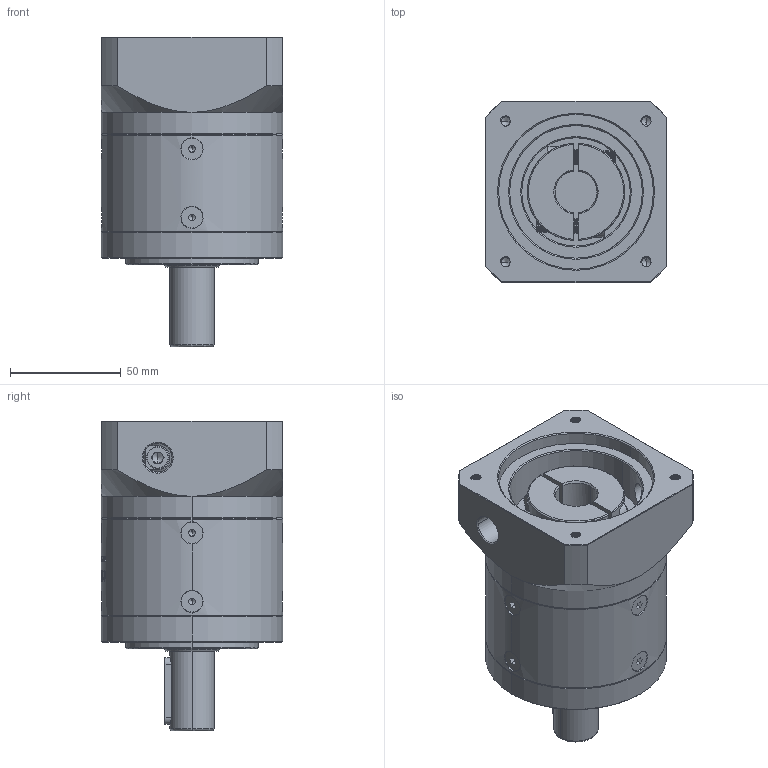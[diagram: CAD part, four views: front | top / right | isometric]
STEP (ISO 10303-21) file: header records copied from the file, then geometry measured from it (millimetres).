
FILE_DESCRIPTION (( 'STEP AP214' ), '1' );
FILE_NAME ('ZE80-D20-L1-19-70-90-M5.step', '2022-05-08T05:50:27', ( '' ), ( 'Microsoft' ), 'SwSTEP 2.0', 'SolidWorks 2016', '' );
FILE_SCHEMA (( 'AUTOMOTIVE_DESIGN' ));
Length unit declared in the file: millimetre
Products named in the file (1): ZE80-D20-L1-19-70-90-M5
Bounding box: 82 x 82 x 140 mm (x, y, z)
Volume: 506314.1 mm3; surface area: 82441.4 mm2
Topology: 13 solids, 13 shells, 2058 faces, 5375 edges, 3405 vertices
Faces by surface type: plane 886, cylinder 500, bspline 332, cone 323, torus 17
Entity records: 118347 total; most frequent: CARTESIAN_POINT 49487, ORIENTED_EDGE 10674, DIRECTION 8197, EDGE_CURVE 5337, VERTEX_POINT 3405, VECTOR 2851, LINE 2851, AXIS2_PLACEMENT_3D 2673
